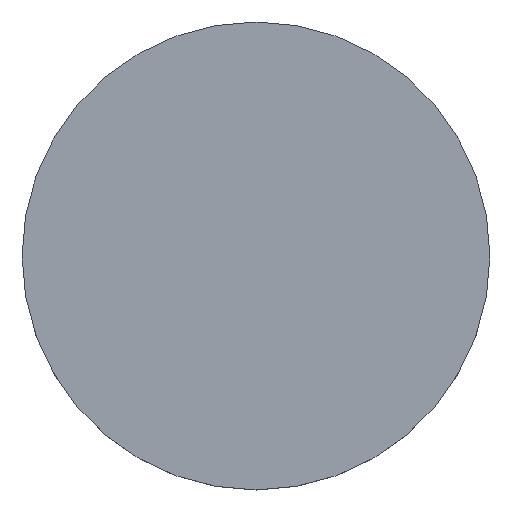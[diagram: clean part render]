
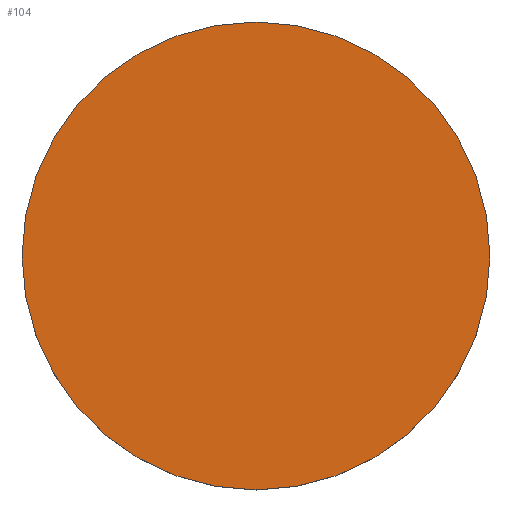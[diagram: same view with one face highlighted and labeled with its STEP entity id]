
A CAD part, top view. The second image highlights one B-rep face of the part: STEP entity #104.
In plain terms, the highlighted planar face has unit normal (0, 0, 1).
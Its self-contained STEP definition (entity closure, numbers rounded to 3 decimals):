
#73=CARTESIAN_POINT('',(10.0,0.,2.5));
#74=VERTEX_POINT('',#73);
#75=CARTESIAN_POINT('',(0.0,0.0,2.5));
#76=DIRECTION('',(0.0,0.0,-1.0));
#77=DIRECTION('',(-1.0,0.0,0.0));
#78=AXIS2_PLACEMENT_3D('',#75,#76,#77);
#79=CIRCLE('',#78,10.0);
#80=EDGE_CURVE('',#74,#74,#79,.T.);
#96=CARTESIAN_POINT('',(0.0,0.0,2.5));
#97=DIRECTION('',(0.0,0.0,-1.0));
#98=DIRECTION('',(-1.0,0.0,0.0));
#99=AXIS2_PLACEMENT_3D('',#96,#97,#98);
#100=PLANE('',#99);
#101=ORIENTED_EDGE('',*,*,#80,.F.);
#102=EDGE_LOOP('',(#101));
#103=FACE_OUTER_BOUND('',#102,.T.);
#104=ADVANCED_FACE('',(#103),#100,.F.);
